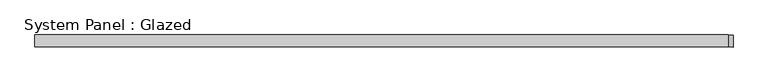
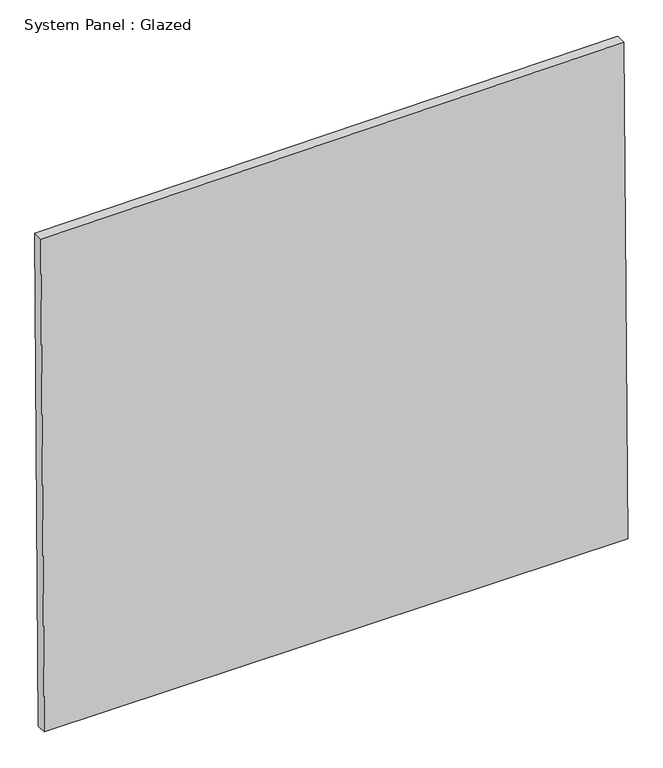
"""IFC4 building model written with IfcOpenShell, lengths in millimetres: plate geometry, System Panel : Glazed."""

import ifcopenshell
import ifcopenshell.guid

model = None  # the IFC model being written
_history = None  # IfcOwnerHistory: only IFC2X3 demands one
_inside = {}  # id of a spatial element -> (the spatial element, [elements in it])
_under = {}  # id of a project, library or spatial element -> (it, [spatial elements below it])
_declared = {}  # id of a project -> (the project, [libraries it declares])
_typed = {}  # id of a type object -> (the type object, [elements of that type])
_made_of = {}  # id of a material, layer set ... -> (it, [elements and type objects made of it])


def new_model(schema):
    """Start an empty IFC model of exactly this schema.

    Asked for "IFC4X3", IfcOpenShell would pick the latest addendum, in which some entities
    have other attributes; the version numbers below select the first issue.
    IFC2X3 requires an IfcOwnerHistory on every rooted entity: one is made here for all.
    """
    global model, _history
    if schema == "IFC4X3":
        model = ifcopenshell.file(schema_version=(4, 3, 0, 0))
    else:
        model = ifcopenshell.file(schema=schema)
    _inside.clear()
    _under.clear()
    _declared.clear()
    _typed.clear()
    _made_of.clear()
    _history = None
    if model.schema == "IFC2X3":
        org = make("IfcOrganization", Name="unknown")
        user = make(
            "IfcPersonAndOrganization",
            ThePerson=make("IfcPerson", FamilyName="unknown"),
            TheOrganization=org,
        )
        app = make(
            "IfcApplication",
            ApplicationDeveloper=org,
            Version="unknown",
            ApplicationFullName="unknown",
            ApplicationIdentifier="unknown",
        )
        _history = make(
            "IfcOwnerHistory",
            OwningUser=user,
            OwningApplication=app,
            ChangeAction="ADDED",
            CreationDate=0,
        )
    return model


def make(cls, **values):
    """One entity of the class cls with the attributes given. An attribute that is None is left unset."""
    return model.create_entity(
        cls, **{name: value for name, value in values.items() if value is not None}
    )


def rooted(cls, **values):
    """An entity with a GlobalId (a new one), such as an element, a storey or a relation."""
    return make(cls, GlobalId=ifcopenshell.guid.new(), OwnerHistory=_history, **values)


def si_unit(unit_type, name, prefix=None):
    """IfcSIUnit, for example si_unit("LENGTHUNIT", "METRE", prefix="MILLI")."""
    return make("IfcSIUnit", UnitType=unit_type, Prefix=prefix, Name=name)


def assignment(units):
    """IfcUnitAssignment: the units of a project."""
    return None if units is None else make("IfcUnitAssignment", Units=units)


def point(xyz):
    """IfcCartesianPoint."""
    return None if xyz is None else make("IfcCartesianPoint", Coordinates=xyz)


def direction(xyz):
    """IfcDirection."""
    return None if xyz is None else make("IfcDirection", DirectionRatios=xyz)


def frame(location, z_axis=None, x_axis=None):
    """IfcAxis2Placement3D, a coordinate frame: its origin and axes. An axis left out is left unset."""
    return make(
        "IfcAxis2Placement3D",
        Location=point(location),
        Axis=direction(z_axis),
        RefDirection=direction(x_axis),
    )


def origin():
    """The frame at (0, 0, 0) with its axes left unset."""
    return frame((0.0, 0.0, 0.0))


def place(relative_to, where):
    """IfcLocalPlacement: puts the frame where relative to a parent placement (None: the world)."""
    return make(
        "IfcLocalPlacement", PlacementRelTo=relative_to, RelativePlacement=where
    )


def context(
    kind, dimensions, precision=None, world=None, true_north=None, identifier=None
):
    """IfcGeometricRepresentationContext, for example the 3D "Model" context."""
    return make(
        "IfcGeometricRepresentationContext",
        ContextIdentifier=identifier,
        ContextType=kind,
        CoordinateSpaceDimension=dimensions,
        Precision=precision,
        WorldCoordinateSystem=world,
        TrueNorth=true_north,
    )


def project(units=None, contexts=None):
    """IfcProject with its units and contexts."""
    return rooted(
        "IfcProject",
        Name="project",
        RepresentationContexts=contexts,
        UnitsInContext=assignment(units),
    )


def spatial(cls, under=None, at=None, **own):
    """A site, building, storey or space (cls), placed at a placement, below another one or the project."""
    s = rooted(cls, ObjectPlacement=at, **own)
    if under is not None:
        _under.setdefault(under.id(), (under, []))[1].append(s)
    return s


def polyline(points):
    """IfcPolyline through the points."""
    return make("IfcPolyline", Points=[point(p) for p in points])


def outline(outer, holes=None, kind="AREA"):
    """IfcArbitraryClosedProfileDef: a profile drawn as a closed curve; with holes, ...WithVoids."""
    if holes is None:
        return make("IfcArbitraryClosedProfileDef", ProfileType=kind, OuterCurve=outer)
    return make(
        "IfcArbitraryProfileDefWithVoids",
        ProfileType=kind,
        OuterCurve=outer,
        InnerCurves=holes,
    )


def extrude(swept, where, along, depth):
    """IfcExtrudedAreaSolid: the profile swept, set in the frame where, extruded along a direction by depth."""
    return make(
        "IfcExtrudedAreaSolid",
        SweptArea=swept,
        Position=where,
        ExtrudedDirection=direction(along),
        Depth=depth,
    )


def shape(context_of_items, identifier, shape_type, items):
    """IfcShapeRepresentation: the items that make up one representation, for example the "Body"."""
    return make(
        "IfcShapeRepresentation",
        ContextOfItems=context_of_items,
        RepresentationIdentifier=identifier,
        RepresentationType=shape_type,
        Items=items,
    )


def source(mapping_origin, context_of_items, identifier, shape_type, items):
    """IfcRepresentationMap: a shape defined once, which mapped items show again and again."""
    return make(
        "IfcRepresentationMap",
        MappingOrigin=mapping_origin,
        MappedRepresentation=shape(context_of_items, identifier, shape_type, items),
    )


def transform(
    local_origin,
    x_axis=None,
    y_axis=None,
    z_axis=None,
    scale=None,
    scale2=None,
    scale3=None,
    uniform=True,
):
    """IfcCartesianTransformationOperator3D, or its non-uniform kind. x_axis, y_axis, z_axis: its Axis1, 2, 3."""
    if uniform:
        return make(
            "IfcCartesianTransformationOperator3D",
            Axis1=direction(x_axis),
            Axis2=direction(y_axis),
            LocalOrigin=point(local_origin),
            Scale=scale,
            Axis3=direction(z_axis),
        )
    return make(
        "IfcCartesianTransformationOperator3DnonUniform",
        Axis1=direction(x_axis),
        Axis2=direction(y_axis),
        LocalOrigin=point(local_origin),
        Scale=scale,
        Axis3=direction(z_axis),
        Scale2=scale2,
        Scale3=scale3,
    )


def mapped(mapping_source, mapping_target):
    """IfcMappedItem: shows the shape of a source again, moved by a transform."""
    return make(
        "IfcMappedItem", MappingSource=mapping_source, MappingTarget=mapping_target
    )


def made_of(thing, what):
    """Note that an element or type object is made of a material, layer set ...; save() writes the relation."""
    if what is not None:
        _made_of.setdefault(what.id(), (what, []))[1].append(thing)
    return thing


def element(
    cls,
    number,
    at=None,
    inside=None,
    cuts=None,
    type_object=None,
    material=None,
    context=None,
    identifier="Body",
    shape_type=None,
    held_by="IfcProductDefinitionShape",
    body=None,
    shapes=None,
    **own,
):
    """One element of the class cls, such as IfcWall. Its Tag is "e" and its number.

    at: its placement. inside: the storey or other place that contains it. cuts: it is an
    opening in that element (IfcRelVoidsElement). A single representation is given by context,
    identifier, shape_type and body (its items); several are given by shapes. held_by: the class
    of the entity that holds the representations. save() writes the other relations.
    """
    e = rooted(cls, Tag="e%d" % number, ObjectPlacement=at, **own)
    if body is not None:
        shapes = [shape(context, identifier, shape_type, body)]
    if shapes is not None:
        e.Representation = make(held_by, Representations=shapes)
    if inside is not None:
        _inside.setdefault(inside.id(), (inside, []))[1].append(e)
    if cuts is not None:
        rooted(
            "IfcRelVoidsElement", RelatingBuildingElement=cuts, RelatedOpeningElement=e
        )
    if type_object is not None:
        _typed.setdefault(type_object.id(), (type_object, []))[1].append(e)
    return made_of(e, material)


def aggregate(whole, parts):
    """IfcRelAggregates: a whole, such as a stair, and the parts it consists of."""
    return rooted("IfcRelAggregates", RelatingObject=whole, RelatedObjects=parts)


def save(model, path):
    """Write the relations noted so far, then the file.

    IfcRelAggregates (storeys below a building ...), IfcRelContainedInSpatialStructure (elements
    in a storey), IfcRelDefinesByType, IfcRelAssociatesMaterial and IfcRelDeclares: one each for
    every whole, place, type object, material and project.
    """
    for whole, parts in _under.values():
        aggregate(whole, parts)
    for where, things in _inside.values():
        rooted(
            "IfcRelContainedInSpatialStructure",
            RelatedElements=things,
            RelatingStructure=where,
        )
    for kind, things in _typed.values():
        rooted("IfcRelDefinesByType", RelatedObjects=things, RelatingType=kind)
    for what, things in _made_of.values():
        rooted("IfcRelAssociatesMaterial", RelatedObjects=things, RelatingMaterial=what)
    for by, libraries in _declared.values():
        rooted("IfcRelDeclares", RelatingContext=by, RelatedDefinitions=libraries)
    model.write(path)


def system_panel_glazed_5d99a78e(model_context):
    return source(origin(), model_context, "Body", "SweptSolid", [
        extrude(outline(polyline([(0.0, -716.6586102), (0.0, 724.9456644), (1300.0753464, 714.7741963), (1289.8143402, -724.9456644), (0.0, -716.6586102)])), frame((0.0, -49.5, 0.0), z_axis=(0.0, 1.0, 0.0), x_axis=(0.0, 0.0, 1.0)), (0.0, 0.0, 1.0), 25.0),
    ])


if __name__ == "__main__":
    model = new_model("IFC4")
    model_context = context("Model", 3, world=origin())
    ifc_project = project(units=[si_unit("LENGTHUNIT", "METRE", prefix="MILLI")], contexts=[model_context])
    site = spatial("IfcSite", under=ifc_project)
    building = spatial("IfcBuilding", under=site)
    placement = place(None, origin())
    system_panel_glazed_shape = system_panel_glazed_5d99a78e(model_context)
    element("IfcPlate", 1, ObjectType="System Panel : Glazed", at=placement, inside=building, context=model_context, shape_type="MappedRepresentation", body=[
        mapped(system_panel_glazed_shape, transform((0.0, 0.0, 0.0), x_axis=(1.0, 0.0, 0.0), y_axis=(0.0, 1.0, 0.0), z_axis=(0.0, 0.0, 1.0))),
    ])
    save(model, "model.ifc")
